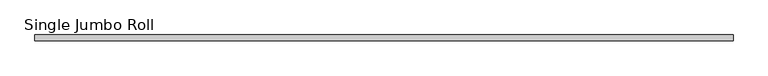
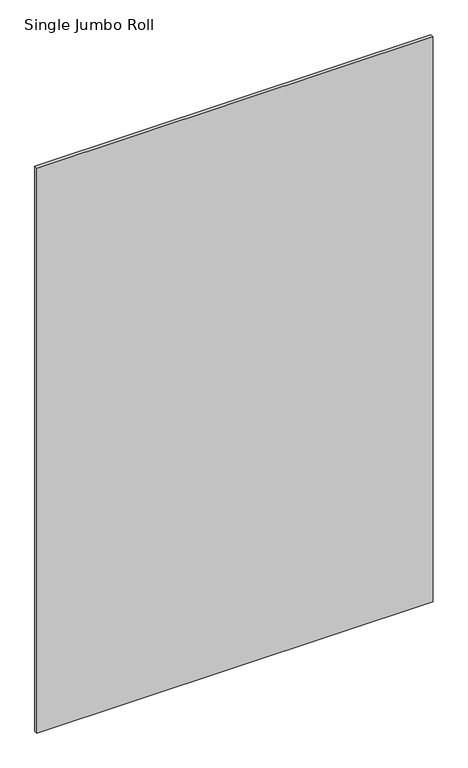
"""IFC4 building model written with IfcOpenShell, lengths in millimetres: furniture geometry, X_Partition-Compact Laminate-Duracube-Rectangular : Single Jumbo Roll."""

import ifcopenshell
import ifcopenshell.guid

model = None  # the IFC model being written
_history = None  # IfcOwnerHistory: only IFC2X3 demands one
_inside = {}  # id of a spatial element -> (the spatial element, [elements in it])
_under = {}  # id of a project, library or spatial element -> (it, [spatial elements below it])
_declared = {}  # id of a project -> (the project, [libraries it declares])
_typed = {}  # id of a type object -> (the type object, [elements of that type])
_made_of = {}  # id of a material, layer set ... -> (it, [elements and type objects made of it])


def new_model(schema):
    """Start an empty IFC model of exactly this schema.

    Asked for "IFC4X3", IfcOpenShell would pick the latest addendum, in which some entities
    have other attributes; the version numbers below select the first issue.
    IFC2X3 requires an IfcOwnerHistory on every rooted entity: one is made here for all.
    """
    global model, _history
    if schema == "IFC4X3":
        model = ifcopenshell.file(schema_version=(4, 3, 0, 0))
    else:
        model = ifcopenshell.file(schema=schema)
    _inside.clear()
    _under.clear()
    _declared.clear()
    _typed.clear()
    _made_of.clear()
    _history = None
    if model.schema == "IFC2X3":
        org = make("IfcOrganization", Name="unknown")
        user = make(
            "IfcPersonAndOrganization",
            ThePerson=make("IfcPerson", FamilyName="unknown"),
            TheOrganization=org,
        )
        app = make(
            "IfcApplication",
            ApplicationDeveloper=org,
            Version="unknown",
            ApplicationFullName="unknown",
            ApplicationIdentifier="unknown",
        )
        _history = make(
            "IfcOwnerHistory",
            OwningUser=user,
            OwningApplication=app,
            ChangeAction="ADDED",
            CreationDate=0,
        )
    return model


def make(cls, **values):
    """One entity of the class cls with the attributes given. An attribute that is None is left unset."""
    return model.create_entity(
        cls, **{name: value for name, value in values.items() if value is not None}
    )


def rooted(cls, **values):
    """An entity with a GlobalId (a new one), such as an element, a storey or a relation."""
    return make(cls, GlobalId=ifcopenshell.guid.new(), OwnerHistory=_history, **values)


def si_unit(unit_type, name, prefix=None):
    """IfcSIUnit, for example si_unit("LENGTHUNIT", "METRE", prefix="MILLI")."""
    return make("IfcSIUnit", UnitType=unit_type, Prefix=prefix, Name=name)


def assignment(units):
    """IfcUnitAssignment: the units of a project."""
    return None if units is None else make("IfcUnitAssignment", Units=units)


def point(xyz):
    """IfcCartesianPoint."""
    return None if xyz is None else make("IfcCartesianPoint", Coordinates=xyz)


def direction(xyz):
    """IfcDirection."""
    return None if xyz is None else make("IfcDirection", DirectionRatios=xyz)


def frame(location, z_axis=None, x_axis=None):
    """IfcAxis2Placement3D, a coordinate frame: its origin and axes. An axis left out is left unset."""
    return make(
        "IfcAxis2Placement3D",
        Location=point(location),
        Axis=direction(z_axis),
        RefDirection=direction(x_axis),
    )


def origin():
    """The frame at (0, 0, 0) with its axes left unset."""
    return frame((0.0, 0.0, 0.0))


def origin_with_axes():
    """The frame at (0, 0, 0) with the z axis (0, 0, 1) and the x axis (1, 0, 0) written out."""
    return frame((0.0, 0.0, 0.0), z_axis=(0.0, 0.0, 1.0), x_axis=(1.0, 0.0, 0.0))


def place(relative_to, where):
    """IfcLocalPlacement: puts the frame where relative to a parent placement (None: the world)."""
    return make(
        "IfcLocalPlacement", PlacementRelTo=relative_to, RelativePlacement=where
    )


def context(
    kind, dimensions, precision=None, world=None, true_north=None, identifier=None
):
    """IfcGeometricRepresentationContext, for example the 3D "Model" context."""
    return make(
        "IfcGeometricRepresentationContext",
        ContextIdentifier=identifier,
        ContextType=kind,
        CoordinateSpaceDimension=dimensions,
        Precision=precision,
        WorldCoordinateSystem=world,
        TrueNorth=true_north,
    )


def project(units=None, contexts=None):
    """IfcProject with its units and contexts."""
    return rooted(
        "IfcProject",
        Name="project",
        RepresentationContexts=contexts,
        UnitsInContext=assignment(units),
    )


def spatial(cls, under=None, at=None, **own):
    """A site, building, storey or space (cls), placed at a placement, below another one or the project."""
    s = rooted(cls, ObjectPlacement=at, **own)
    if under is not None:
        _under.setdefault(under.id(), (under, []))[1].append(s)
    return s


def polyline(points):
    """IfcPolyline through the points."""
    return make("IfcPolyline", Points=[point(p) for p in points])


def outline(outer, holes=None, kind="AREA"):
    """IfcArbitraryClosedProfileDef: a profile drawn as a closed curve; with holes, ...WithVoids."""
    if holes is None:
        return make("IfcArbitraryClosedProfileDef", ProfileType=kind, OuterCurve=outer)
    return make(
        "IfcArbitraryProfileDefWithVoids",
        ProfileType=kind,
        OuterCurve=outer,
        InnerCurves=holes,
    )


def extrude(swept, where, along, depth):
    """IfcExtrudedAreaSolid: the profile swept, set in the frame where, extruded along a direction by depth."""
    return make(
        "IfcExtrudedAreaSolid",
        SweptArea=swept,
        Position=where,
        ExtrudedDirection=direction(along),
        Depth=depth,
    )


def shape(context_of_items, identifier, shape_type, items):
    """IfcShapeRepresentation: the items that make up one representation, for example the "Body"."""
    return make(
        "IfcShapeRepresentation",
        ContextOfItems=context_of_items,
        RepresentationIdentifier=identifier,
        RepresentationType=shape_type,
        Items=items,
    )


def source(mapping_origin, context_of_items, identifier, shape_type, items):
    """IfcRepresentationMap: a shape defined once, which mapped items show again and again."""
    return make(
        "IfcRepresentationMap",
        MappingOrigin=mapping_origin,
        MappedRepresentation=shape(context_of_items, identifier, shape_type, items),
    )


def transform(
    local_origin,
    x_axis=None,
    y_axis=None,
    z_axis=None,
    scale=None,
    scale2=None,
    scale3=None,
    uniform=True,
):
    """IfcCartesianTransformationOperator3D, or its non-uniform kind. x_axis, y_axis, z_axis: its Axis1, 2, 3."""
    if uniform:
        return make(
            "IfcCartesianTransformationOperator3D",
            Axis1=direction(x_axis),
            Axis2=direction(y_axis),
            LocalOrigin=point(local_origin),
            Scale=scale,
            Axis3=direction(z_axis),
        )
    return make(
        "IfcCartesianTransformationOperator3DnonUniform",
        Axis1=direction(x_axis),
        Axis2=direction(y_axis),
        LocalOrigin=point(local_origin),
        Scale=scale,
        Axis3=direction(z_axis),
        Scale2=scale2,
        Scale3=scale3,
    )


def mapped(mapping_source, mapping_target):
    """IfcMappedItem: shows the shape of a source again, moved by a transform."""
    return make(
        "IfcMappedItem", MappingSource=mapping_source, MappingTarget=mapping_target
    )


def made_of(thing, what):
    """Note that an element or type object is made of a material, layer set ...; save() writes the relation."""
    if what is not None:
        _made_of.setdefault(what.id(), (what, []))[1].append(thing)
    return thing


def element(
    cls,
    number,
    at=None,
    inside=None,
    cuts=None,
    type_object=None,
    material=None,
    context=None,
    identifier="Body",
    shape_type=None,
    held_by="IfcProductDefinitionShape",
    body=None,
    shapes=None,
    **own,
):
    """One element of the class cls, such as IfcWall. Its Tag is "e" and its number.

    at: its placement. inside: the storey or other place that contains it. cuts: it is an
    opening in that element (IfcRelVoidsElement). A single representation is given by context,
    identifier, shape_type and body (its items); several are given by shapes. held_by: the class
    of the entity that holds the representations. save() writes the other relations.
    """
    e = rooted(cls, Tag="e%d" % number, ObjectPlacement=at, **own)
    if body is not None:
        shapes = [shape(context, identifier, shape_type, body)]
    if shapes is not None:
        e.Representation = make(held_by, Representations=shapes)
    if inside is not None:
        _inside.setdefault(inside.id(), (inside, []))[1].append(e)
    if cuts is not None:
        rooted(
            "IfcRelVoidsElement", RelatingBuildingElement=cuts, RelatedOpeningElement=e
        )
    if type_object is not None:
        _typed.setdefault(type_object.id(), (type_object, []))[1].append(e)
    return made_of(e, material)


def aggregate(whole, parts):
    """IfcRelAggregates: a whole, such as a stair, and the parts it consists of."""
    return rooted("IfcRelAggregates", RelatingObject=whole, RelatedObjects=parts)


def save(model, path):
    """Write the relations noted so far, then the file.

    IfcRelAggregates (storeys below a building ...), IfcRelContainedInSpatialStructure (elements
    in a storey), IfcRelDefinesByType, IfcRelAssociatesMaterial and IfcRelDeclares: one each for
    every whole, place, type object, material and project.
    """
    for whole, parts in _under.values():
        aggregate(whole, parts)
    for where, things in _inside.values():
        rooted(
            "IfcRelContainedInSpatialStructure",
            RelatedElements=things,
            RelatingStructure=where,
        )
    for kind, things in _typed.values():
        rooted("IfcRelDefinesByType", RelatedObjects=things, RelatingType=kind)
    for what, things in _made_of.values():
        rooted("IfcRelAssociatesMaterial", RelatedObjects=things, RelatingMaterial=what)
    for by, libraries in _declared.values():
        rooted("IfcRelDeclares", RelatingContext=by, RelatedDefinitions=libraries)
    model.write(path)


def single_jumbo_roll_e7ba397d(model_context):
    return source(origin(), model_context, "Body", "SweptSolid", [
        extrude(outline(polyline([(840.7003264, 0.0), (840.7003264, -13.0), (-751.2996736, -13.0), (-751.2996736, 0.0), (840.7003264, 0.0)])), origin_with_axes(), (0.0, 0.0, 1.0), 2398.0),
    ])


if __name__ == "__main__":
    model = new_model("IFC4")
    model_context = context("Model", 3, world=origin())
    ifc_project = project(units=[si_unit("LENGTHUNIT", "METRE", prefix="MILLI")], contexts=[model_context])
    site = spatial("IfcSite", under=ifc_project)
    building = spatial("IfcBuilding", under=site)
    placement = place(None, origin())
    single_jumbo_roll_shape = single_jumbo_roll_e7ba397d(model_context)
    element("IfcFurniture", 1, ObjectType="X_Partition-Compact Laminate-Duracube-Rectangular : Single Jumbo Roll", at=placement, inside=building, context=model_context, shape_type="MappedRepresentation", body=[
        mapped(single_jumbo_roll_shape, transform((0.0, 0.0, 0.0), x_axis=(1.0, 0.0, 0.0), y_axis=(0.0, 1.0, 0.0), z_axis=(0.0, 0.0, 1.0))),
    ])
    save(model, "model.ifc")
